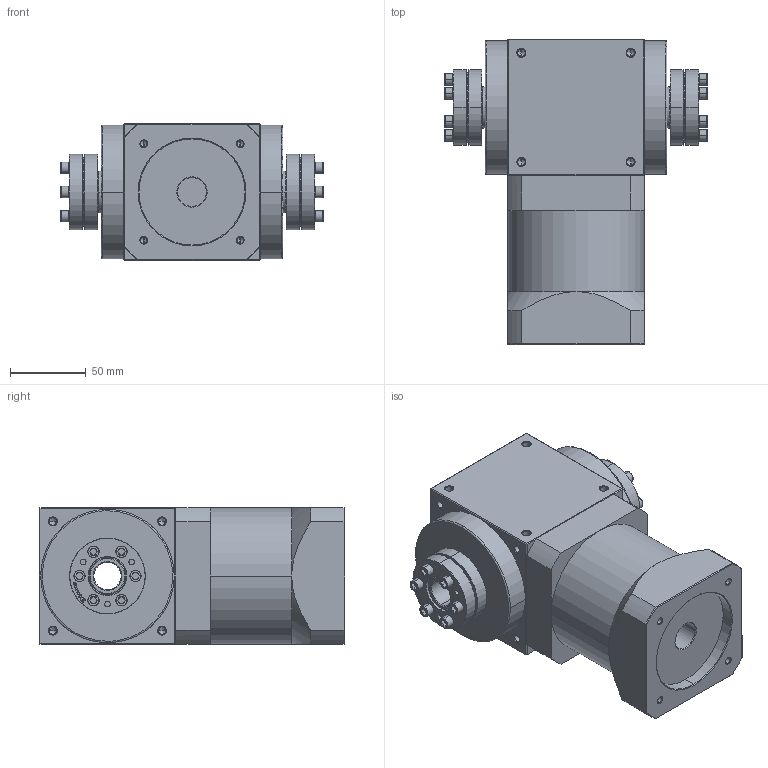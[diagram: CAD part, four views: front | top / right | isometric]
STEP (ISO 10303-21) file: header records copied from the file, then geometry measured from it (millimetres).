
FILE_DESCRIPTION (( 'STEP AP214' ), '1' );
FILE_NAME ('AT090-FC-L1(3~10)--19-70-90-M5.STEP', '2020-10-08T05:03:18', ( '微软用户' ), ( '微软中国' ), 'SwSTEP 2.0', 'SolidWorks 2014', '' );
FILE_SCHEMA (( 'AUTOMOTIVE_DESIGN' ));
Length unit declared in the file: millimetre
Products named in the file (6): 83_24x50; AT090-FC-L1-750W; AT090-FC-L1(3~10)--19-70-90-M5
Assembly tree (3 placements, depth 2):
  83_24x50
  AT090-FC-L1-750W
  AT090-FC-L1(3~10)--19-70-90-M5
    AT090-FC-L1-750W
    83_24x50  x2
  83_24x50
Bounding box: 173 x 201.5 x 90 mm (x, y, z)
Volume: 1689806.5 mm3; surface area: 146804.1 mm2
Topology: 21 solids, 21 shells, 1076 faces, 2488 edges, 1456 vertices
Faces by surface type: cylinder 450, plane 278, cone 256, torus 80, bspline 12
Entity records: 19864 total; most frequent: CARTESIAN_POINT 4332, DIRECTION 3318, ORIENTED_EDGE 3132, EDGE_CURVE 1566, AXIS2_PLACEMENT_3D 1282, VERTEX_POINT 930, EDGE_LOOP 780, LINE 754
